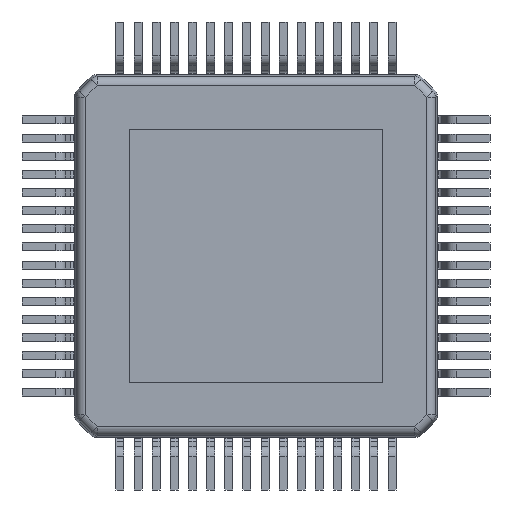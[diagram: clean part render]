
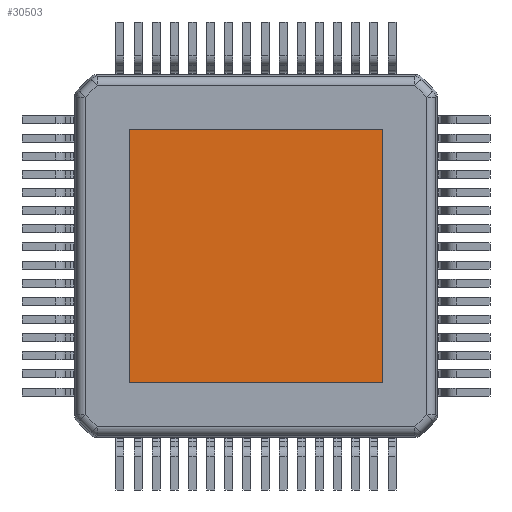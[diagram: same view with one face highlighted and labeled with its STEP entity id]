
A CAD part, front view. The second image highlights one B-rep face of the part: STEP entity #30503.
In plain terms, the highlighted planar face has unit normal (0, -1, 0).
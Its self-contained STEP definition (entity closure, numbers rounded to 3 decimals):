
#30356 = CARTESIAN_POINT ( 'NONE',  ( 3.5, 0., 3.5 ) ) ;
#30357 = VERTEX_POINT ( 'NONE', #30356 ) ;
#30358 = CARTESIAN_POINT ( 'NONE',  ( 3.5, 0., -3.5 ) ) ;
#30359 = VERTEX_POINT ( 'NONE', #30358 ) ;
#30360 = CARTESIAN_POINT ( 'NONE',  ( 3.5, 0., 3.5 ) ) ;
#30361 = DIRECTION ( 'NONE',  ( 0., 0., -1. ) ) ;
#30362 = VECTOR ( 'NONE', #30361, 1000. ) ;
#30363 = LINE ( 'NONE', #30360, #30362 ) ;
#30364 = EDGE_CURVE ( 'NONE', #30357, #30359, #30363, .T. ) ;
#30396 = CARTESIAN_POINT ( 'NONE',  ( -3.5, 0., -3.5 ) ) ;
#30397 = VERTEX_POINT ( 'NONE', #30396 ) ;
#30398 = CARTESIAN_POINT ( 'NONE',  ( -3.5, 0., -3.5 ) ) ;
#30399 = DIRECTION ( 'NONE',  ( -1., 0., 0. ) ) ;
#30400 = VECTOR ( 'NONE', #30399, 1000. ) ;
#30401 = LINE ( 'NONE', #30398, #30400 ) ;
#30402 = EDGE_CURVE ( 'NONE', #30359, #30397, #30401, .T. ) ;
#30427 = CARTESIAN_POINT ( 'NONE',  ( -3.5, 0., 3.5 ) ) ;
#30428 = VERTEX_POINT ( 'NONE', #30427 ) ;
#30429 = CARTESIAN_POINT ( 'NONE',  ( -3.5, 0., 3.5 ) ) ;
#30430 = DIRECTION ( 'NONE',  ( 0., 0., 1. ) ) ;
#30431 = VECTOR ( 'NONE', #30430, 1000. ) ;
#30432 = LINE ( 'NONE', #30429, #30431 ) ;
#30433 = EDGE_CURVE ( 'NONE', #30397, #30428, #30432, .T. ) ;
#30458 = CARTESIAN_POINT ( 'NONE',  ( -3.5, 0., 3.5 ) ) ;
#30459 = DIRECTION ( 'NONE',  ( 1., 0., 0. ) ) ;
#30460 = VECTOR ( 'NONE', #30459, 1000. ) ;
#30461 = LINE ( 'NONE', #30458, #30460 ) ;
#30462 = EDGE_CURVE ( 'NONE', #30428, #30357, #30461, .T. ) ;
#30492 = ORIENTED_EDGE ( 'NONE', *, *, #30364, .F. ) ;
#30493 = ORIENTED_EDGE ( 'NONE', *, *, #30462, .F. ) ;
#30494 = ORIENTED_EDGE ( 'NONE', *, *, #30433, .F. ) ;
#30495 = ORIENTED_EDGE ( 'NONE', *, *, #30402, .F. ) ;
#30496 = EDGE_LOOP ( 'NONE', ( #30492, #30493, #30494, #30495 ) ) ;
#30497 = FACE_OUTER_BOUND ( 'NONE', #30496, .T. ) ;
#30498 = CARTESIAN_POINT ( 'NONE',  ( 0., 0., 0. ) ) ;
#30499 = DIRECTION ( 'NONE',  ( 0., -1., 0. ) ) ;
#30500 = DIRECTION ( 'NONE',  ( 0., 0., -1. ) ) ;
#30501 = AXIS2_PLACEMENT_3D ( 'NONE', #30498, #30499, #30500 ) ;
#30502 = PLANE ( 'NONE', #30501 ) ;
#30503 = ADVANCED_FACE ( 'NONE', ( #30497 ), #30502, .T. ) ;
